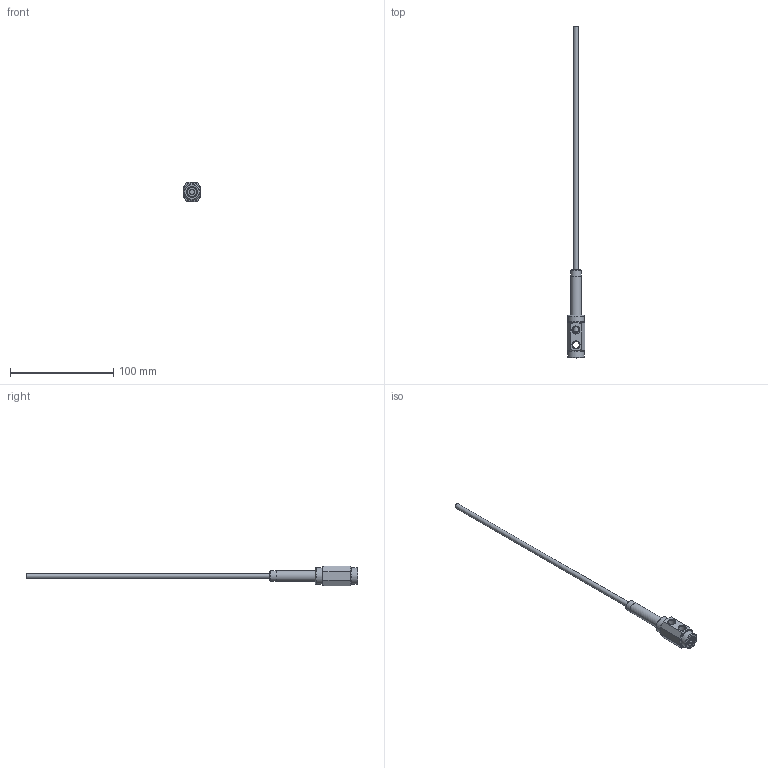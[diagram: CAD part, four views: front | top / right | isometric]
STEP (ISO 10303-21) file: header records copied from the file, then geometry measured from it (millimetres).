
FILE_DESCRIPTION(/* description */ (''),/* implementation_level */ '2;1');
FILE_NAME(/* name */ 'C:/Users/drich/Desktop/16N-RL v1.step',/* time_stamp */ '2020-01-15T19:42:56-06:00',/* author */ (''),/* organization */ (''),/* preprocessor_version */ 'ST-DEVELOPER v18',/* originating_system */ 'Autodesk Translation Framework v8.12.0.6',/* authorisation */ '');
FILE_SCHEMA (('CONFIG_CONTROL_DESIGN','AUTOMOTIVE_DESIGN { 1 0 10303 214 3 1 1 }'));
Length unit declared in the file: inch
Products named in the file (5): 16N-RL; 16H-RL; SSPN18-2; PT16-187-12; BF-18
Assembly tree (4 placements, depth 2):
  16N-RL
    16H-RL
    SSPN18-2
    PT16-187-12
    BF-18
Bounding box: 17.42 x 322.32 x 19.05 mm (x, y, z)
Volume: 11845.5 mm3; surface area: 15912.1 mm2
Topology: 4 solids, 4 shells, 88 faces, 233 edges, 160 vertices
Faces by surface type: plane 42, cylinder 22, cone 18, torus 6
Full cylindrical faces by diameter (mm): 3.962 x1, 4.242 x1, 4.724 x1, 5.969 x1, 6.697 x4, 6.833 x1, 7.616 x1, 8.707 x2, 9.621 x1, 10.262 x2, 10.312 x1, 15.875 x2
Entity records: 3063 total; most frequent: CARTESIAN_POINT 680, DIRECTION 499, ORIENTED_EDGE 466, EDGE_CURVE 233, AXIS2_PLACEMENT_3D 207, VERTEX_POINT 160, CIRCLE 110, EDGE_LOOP 107
